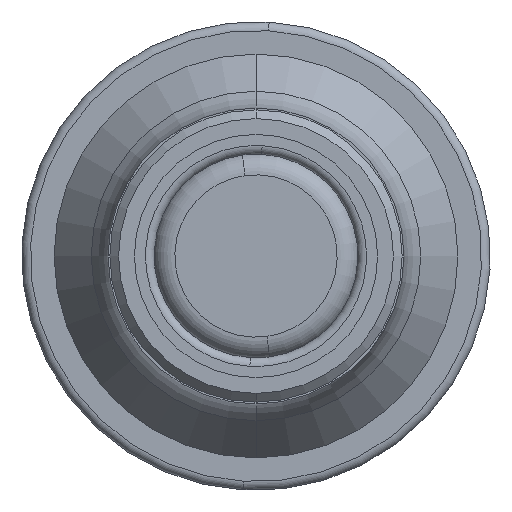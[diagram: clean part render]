
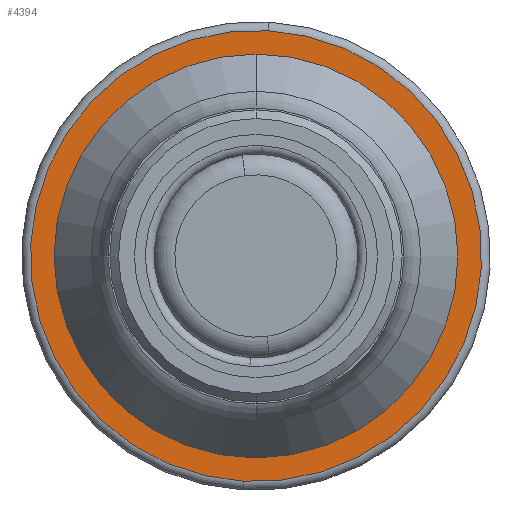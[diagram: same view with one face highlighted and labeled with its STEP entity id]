
A CAD part, front view. The second image highlights one B-rep face of the part: STEP entity #4394.
In plain terms, the highlighted planar face has unit normal (0, -1, 0).
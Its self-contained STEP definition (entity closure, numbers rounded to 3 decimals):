
#144 = AXIS2_PLACEMENT_3D ( 'NONE', #13933, #12311, #12257 ) ;
#834 = CARTESIAN_POINT ( 'NONE',  ( 1.087, 62.619, 19.47 ) ) ;
#867 = CARTESIAN_POINT ( 'NONE',  ( 0., 62.619, 0. ) ) ;
#1353 = EDGE_LOOP ( 'NONE', ( #14378, #8136 ) ) ;
#1756 = ORIENTED_EDGE ( 'NONE', *, *, #7802, .F. ) ;
#1994 = DIRECTION ( 'NONE',  ( -0.056, 0., -0.998 ) ) ;
#2003 = EDGE_CURVE ( 'NONE', #11346, #5673, #13456, .T. ) ;
#2128 = CARTESIAN_POINT ( 'NONE',  ( 0., 62.619, 0. ) ) ;
#2558 = DIRECTION ( 'NONE',  ( 0., -1., 0. ) ) ;
#2604 = AXIS2_PLACEMENT_3D ( 'NONE', #13611, #6937, #10142 ) ;
#3085 = CIRCLE ( 'NONE', #9704, 25.7 ) ;
#3284 = DIRECTION ( 'NONE',  ( -0.056, 0., -0.998 ) ) ;
#3652 = CARTESIAN_POINT ( 'NONE',  ( -1.087, 62.619, -19.47 ) ) ;
#3903 = DIRECTION ( 'NONE',  ( -0.056, 0., -0.998 ) ) ;
#4016 = CIRCLE ( 'NONE', #6378, 19.5 ) ;
#4025 = VERTEX_POINT ( 'NONE', #5684 ) ;
#4394 = ADVANCED_FACE ( 'NONE', ( #6702, #12094 ), #13257, .T. ) ;
#5470 = CIRCLE ( 'NONE', #2604, 25.7 ) ;
#5673 = VERTEX_POINT ( 'NONE', #3652 ) ;
#5684 = CARTESIAN_POINT ( 'NONE',  ( -1.433, 62.619, -25.66 ) ) ;
#6378 = AXIS2_PLACEMENT_3D ( 'NONE', #867, #8849, #1994 ) ;
#6702 = FACE_OUTER_BOUND ( 'NONE', #1353, .T. ) ;
#6720 = EDGE_CURVE ( 'NONE', #4025, #13593, #5470, .T. ) ;
#6936 = AXIS2_PLACEMENT_3D ( 'NONE', #11116, #2558, #3903 ) ;
#6937 = DIRECTION ( 'NONE',  ( 0., -1., 0. ) ) ;
#7802 = EDGE_CURVE ( 'NONE', #5673, #11346, #4016, .T. ) ;
#8136 = ORIENTED_EDGE ( 'NONE', *, *, #10160, .T. ) ;
#8849 = DIRECTION ( 'NONE',  ( 0., -1., 0. ) ) ;
#9405 = CARTESIAN_POINT ( 'NONE',  ( 1.433, 62.619, 25.66 ) ) ;
#9704 = AXIS2_PLACEMENT_3D ( 'NONE', #2128, #10100, #3284 ) ;
#10100 = DIRECTION ( 'NONE',  ( 0., -1., 0. ) ) ;
#10142 = DIRECTION ( 'NONE',  ( -0.056, 0., -0.998 ) ) ;
#10160 = EDGE_CURVE ( 'NONE', #13593, #4025, #3085, .T. ) ;
#10369 = ORIENTED_EDGE ( 'NONE', *, *, #2003, .F. ) ;
#10752 = EDGE_LOOP ( 'NONE', ( #1756, #10369 ) ) ;
#11116 = CARTESIAN_POINT ( 'NONE',  ( 0., 62.619, 0. ) ) ;
#11346 = VERTEX_POINT ( 'NONE', #834 ) ;
#12094 = FACE_BOUND ( 'NONE', #10752, .T. ) ;
#12257 = DIRECTION ( 'NONE',  ( -0.056, 0., -0.998 ) ) ;
#12311 = DIRECTION ( 'NONE',  ( 0., -1., 0. ) ) ;
#13257 = PLANE ( 'NONE',  #144 ) ;
#13456 = CIRCLE ( 'NONE', #6936, 19.5 ) ;
#13593 = VERTEX_POINT ( 'NONE', #9405 ) ;
#13611 = CARTESIAN_POINT ( 'NONE',  ( 0., 62.619, 0. ) ) ;
#13933 = CARTESIAN_POINT ( 'NONE',  ( 19.47, 62.619, -1.087 ) ) ;
#14378 = ORIENTED_EDGE ( 'NONE', *, *, #6720, .T. ) ;
